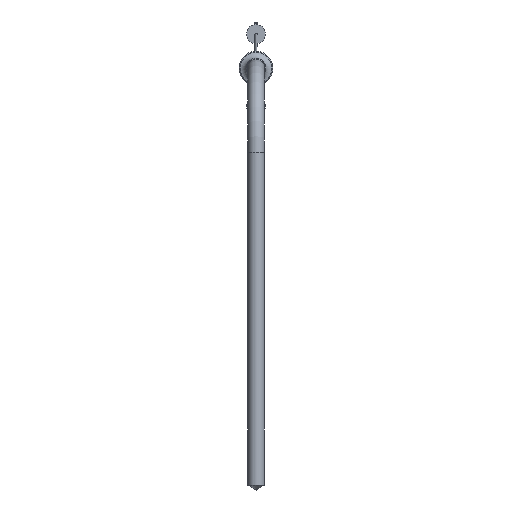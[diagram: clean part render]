
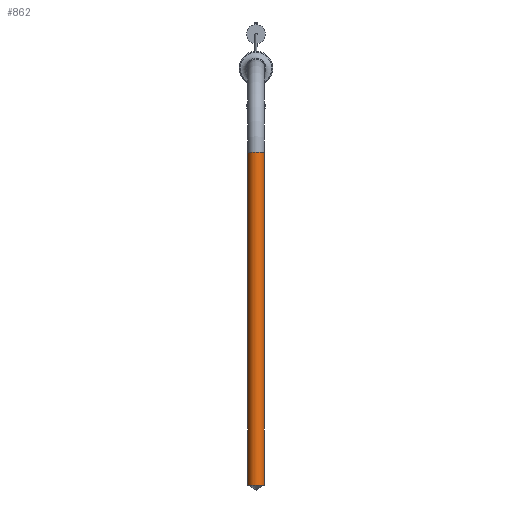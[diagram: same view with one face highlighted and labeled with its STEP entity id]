
A CAD part, top view. The second image highlights one B-rep face of the part: STEP entity #862.
In plain terms, the highlighted cylindrical face has radius 2 mm (diameter 4 mm), a full revolution.
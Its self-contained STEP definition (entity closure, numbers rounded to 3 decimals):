
#47 = CIRCLE ( 'NONE', #2362, 2. ) ;
#113 = EDGE_CURVE ( 'NONE', #1885, #1885, #1439, .T. ) ;
#195 = DIRECTION ( 'NONE',  ( 0., -1., 0. ) ) ;
#227 = ORIENTED_EDGE ( 'NONE', *, *, #113, .T. ) ;
#692 = CARTESIAN_POINT ( 'NONE',  ( 0., -98.846, 25. ) ) ;
#846 = DIRECTION ( 'NONE',  ( -1., 0., 0. ) ) ;
#855 = VERTEX_POINT ( 'NONE', #1722 ) ;
#862 = ADVANCED_FACE ( 'NONE', ( #1281, #1923 ), #1493, .T. ) ;
#865 = DIRECTION ( 'NONE',  ( 0., 1., 0. ) ) ;
#1080 = EDGE_LOOP ( 'NONE', ( #1869 ) ) ;
#1238 = CARTESIAN_POINT ( 'NONE',  ( 0., -20., 25. ) ) ;
#1281 = FACE_OUTER_BOUND ( 'NONE', #1080, .T. ) ;
#1437 = EDGE_LOOP ( 'NONE', ( #227 ) ) ;
#1439 = CIRCLE ( 'NONE', #2481, 2. ) ;
#1493 = CYLINDRICAL_SURFACE ( 'NONE', #2214, 2. ) ;
#1674 = DIRECTION ( 'NONE',  ( 0., -1., 0. ) ) ;
#1722 = CARTESIAN_POINT ( 'NONE',  ( 0., -98.846, 27. ) ) ;
#1745 = DIRECTION ( 'NONE',  ( 0., 0., 1. ) ) ;
#1869 = ORIENTED_EDGE ( 'NONE', *, *, #2433, .T. ) ;
#1885 = VERTEX_POINT ( 'NONE', #2358 ) ;
#1923 = FACE_OUTER_BOUND ( 'NONE', #1437, .T. ) ;
#2214 = AXIS2_PLACEMENT_3D ( 'NONE', #1238, #1674, #2561 ) ;
#2358 = CARTESIAN_POINT ( 'NONE',  ( -2., -20., 25. ) ) ;
#2362 = AXIS2_PLACEMENT_3D ( 'NONE', #692, #865, #1745 ) ;
#2433 = EDGE_CURVE ( 'NONE', #855, #855, #47, .T. ) ;
#2481 = AXIS2_PLACEMENT_3D ( 'NONE', #2761, #195, #846 ) ;
#2561 = DIRECTION ( 'NONE',  ( 0., 0., 1. ) ) ;
#2761 = CARTESIAN_POINT ( 'NONE',  ( 0., -20., 25. ) ) ;
